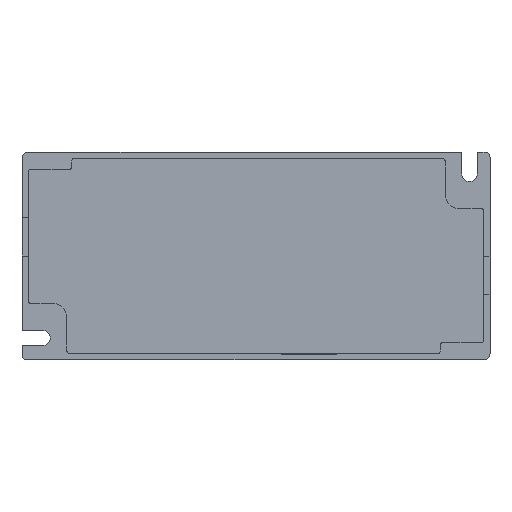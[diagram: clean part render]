
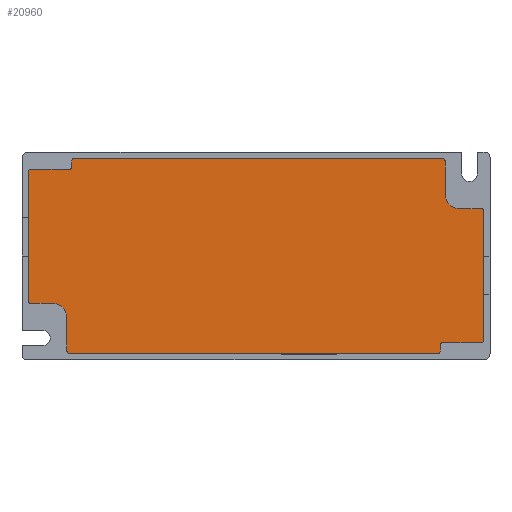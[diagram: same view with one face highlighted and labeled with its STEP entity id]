
A CAD part, front view. The second image highlights one B-rep face of the part: STEP entity #20960.
In plain terms, the highlighted planar face has unit normal (0, -1, 0).
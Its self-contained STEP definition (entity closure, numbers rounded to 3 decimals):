
#19527=CARTESIAN_POINT('',(-38.7,-5.5,-19.7));
#19528=DIRECTION('',(0.,1.,0.));
#19529=DIRECTION('',(0.,0.,-1.));
#19530=AXIS2_PLACEMENT_3D('',#19527,#19528,#19529);
#19535=CARTESIAN_POINT('',(-42.2,-5.5,-12.8));
#19536=DIRECTION('',(0.,-1.,0.));
#19537=DIRECTION('',(1.,0.,0.));
#19538=AXIS2_PLACEMENT_3D('',#19535,#19536,#19537);
#19543=CARTESIAN_POINT('',(-46.7,-5.5,-9.3));
#19544=DIRECTION('',(0.,1.,0.));
#19545=DIRECTION('',(0.,0.,-1.));
#19546=AXIS2_PLACEMENT_3D('',#19543,#19544,#19545);
#19551=CARTESIAN_POINT('',(-46.7,-5.5,17.5));
#19552=DIRECTION('',(0.,1.,0.));
#19553=DIRECTION('',(-1.,0.,0.));
#19554=AXIS2_PLACEMENT_3D('',#19551,#19552,#19553);
#19559=CARTESIAN_POINT('',(-38.7,-5.5,18.5));
#19560=DIRECTION('',(0.,-1.,0.));
#19561=DIRECTION('',(0.,0.,-1.));
#19562=AXIS2_PLACEMENT_3D('',#19559,#19560,#19561);
#19567=CARTESIAN_POINT('',(-37.7,-5.5,19.7));
#19568=DIRECTION('',(0.,1.,0.));
#19569=DIRECTION('',(-1.,0.,0.));
#19570=AXIS2_PLACEMENT_3D('',#19567,#19568,#19569);
#19575=CARTESIAN_POINT('',(38.7,-5.5,19.7));
#19576=DIRECTION('',(0.,1.,0.));
#19577=DIRECTION('',(0.,0.,1.));
#19578=AXIS2_PLACEMENT_3D('',#19575,#19576,#19577);
#19583=CARTESIAN_POINT('',(42.2,-5.5,12.8));
#19584=DIRECTION('',(0.,-1.,0.));
#19585=DIRECTION('',(-1.,0.,0.));
#19586=AXIS2_PLACEMENT_3D('',#19583,#19584,#19585);
#19591=CARTESIAN_POINT('',(46.7,-5.5,9.3));
#19592=DIRECTION('',(0.,1.,0.));
#19593=DIRECTION('',(0.,0.,1.));
#19594=AXIS2_PLACEMENT_3D('',#19591,#19592,#19593);
#19599=CARTESIAN_POINT('',(46.7,-5.5,-17.5));
#19600=DIRECTION('',(0.,1.,0.));
#19601=DIRECTION('',(1.,0.,0.));
#19602=AXIS2_PLACEMENT_3D('',#19599,#19600,#19601);
#19607=CARTESIAN_POINT('',(38.7,-5.5,-18.5));
#19608=DIRECTION('',(0.,-1.,0.));
#19609=DIRECTION('',(0.,0.,1.));
#19610=AXIS2_PLACEMENT_3D('',#19607,#19608,#19609);
#19615=CARTESIAN_POINT('',(37.7,-5.5,-19.7));
#19616=DIRECTION('',(0.,1.,0.));
#19617=DIRECTION('',(1.,0.,0.));
#19618=AXIS2_PLACEMENT_3D('',#19615,#19616,#19617);
#19833=DIRECTION('',(1.,0.,0.));
#19834=VECTOR('',#19833,76.4);
#19835=CARTESIAN_POINT('',(-38.7,-5.5,-20.2));
#19836=LINE('',#19835,#19834);
#19882=DIRECTION('',(0.,0.,1.));
#19883=VECTOR('',#19882,1.2);
#19884=CARTESIAN_POINT('',(38.2,-5.5,-19.7));
#19885=LINE('',#19884,#19883);
#19903=DIRECTION('',(1.,0.,0.));
#19904=VECTOR('',#19903,8.);
#19905=CARTESIAN_POINT('',(38.7,-5.5,-18.));
#19906=LINE('',#19905,#19904);
#19924=DIRECTION('',(0.,0.,1.));
#19925=VECTOR('',#19924,26.8);
#19926=CARTESIAN_POINT('',(47.2,-5.5,-17.5));
#19927=LINE('',#19926,#19925);
#19945=DIRECTION('',(-1.,0.,0.));
#19946=VECTOR('',#19945,4.5);
#19947=CARTESIAN_POINT('',(46.7,-5.5,9.8));
#19948=LINE('',#19947,#19946);
#19966=DIRECTION('',(0.,0.,1.));
#19967=VECTOR('',#19966,6.9);
#19968=CARTESIAN_POINT('',(39.2,-5.5,12.8));
#19969=LINE('',#19968,#19967);
#19987=DIRECTION('',(-1.,0.,0.));
#19988=VECTOR('',#19987,76.4);
#19989=CARTESIAN_POINT('',(38.7,-5.5,20.2));
#19990=LINE('',#19989,#19988);
#20036=DIRECTION('',(0.,0.,-1.));
#20037=VECTOR('',#20036,1.2);
#20038=CARTESIAN_POINT('',(-38.2,-5.5,19.7));
#20039=LINE('',#20038,#20037);
#20057=DIRECTION('',(-1.,0.,0.));
#20058=VECTOR('',#20057,8.);
#20059=CARTESIAN_POINT('',(-38.7,-5.5,18.));
#20060=LINE('',#20059,#20058);
#20078=DIRECTION('',(0.,0.,-1.));
#20079=VECTOR('',#20078,26.8);
#20080=CARTESIAN_POINT('',(-47.2,-5.5,17.5));
#20081=LINE('',#20080,#20079);
#20099=DIRECTION('',(1.,0.,0.));
#20100=VECTOR('',#20099,4.5);
#20101=CARTESIAN_POINT('',(-46.7,-5.5,-9.8));
#20102=LINE('',#20101,#20100);
#20120=DIRECTION('',(0.,0.,-1.));
#20121=VECTOR('',#20120,6.9);
#20122=CARTESIAN_POINT('',(-39.2,-5.5,-12.8));
#20123=LINE('',#20122,#20121);
#20689=CARTESIAN_POINT('',(-38.7,-5.5,-20.2));
#20690=CARTESIAN_POINT('',(-39.2,-5.5,-19.7));
#20691=VERTEX_POINT('',#20689);
#20692=VERTEX_POINT('',#20690);
#20693=CARTESIAN_POINT('',(-39.2,-5.5,-12.8));
#20694=VERTEX_POINT('',#20693);
#20695=CARTESIAN_POINT('',(-42.2,-5.5,-9.8));
#20696=VERTEX_POINT('',#20695);
#20697=CARTESIAN_POINT('',(-46.7,-5.5,-9.8));
#20698=VERTEX_POINT('',#20697);
#20699=CARTESIAN_POINT('',(-47.2,-5.5,-9.3));
#20700=VERTEX_POINT('',#20699);
#20701=CARTESIAN_POINT('',(-47.2,-5.5,17.5));
#20702=VERTEX_POINT('',#20701);
#20703=CARTESIAN_POINT('',(-46.7,-5.5,18.));
#20704=VERTEX_POINT('',#20703);
#20705=CARTESIAN_POINT('',(-38.7,-5.5,18.));
#20706=VERTEX_POINT('',#20705);
#20707=CARTESIAN_POINT('',(-38.2,-5.5,18.5));
#20708=VERTEX_POINT('',#20707);
#20709=CARTESIAN_POINT('',(-38.2,-5.5,19.7));
#20710=VERTEX_POINT('',#20709);
#20711=CARTESIAN_POINT('',(-37.7,-5.5,20.2));
#20712=VERTEX_POINT('',#20711);
#20713=CARTESIAN_POINT('',(38.7,-5.5,20.2));
#20714=VERTEX_POINT('',#20713);
#20715=CARTESIAN_POINT('',(39.2,-5.5,19.7));
#20716=VERTEX_POINT('',#20715);
#20717=CARTESIAN_POINT('',(39.2,-5.5,12.8));
#20718=VERTEX_POINT('',#20717);
#20719=CARTESIAN_POINT('',(42.2,-5.5,9.8));
#20720=VERTEX_POINT('',#20719);
#20721=CARTESIAN_POINT('',(46.7,-5.5,9.8));
#20722=VERTEX_POINT('',#20721);
#20723=CARTESIAN_POINT('',(47.2,-5.5,9.3));
#20724=VERTEX_POINT('',#20723);
#20725=CARTESIAN_POINT('',(47.2,-5.5,-17.5));
#20726=VERTEX_POINT('',#20725);
#20727=CARTESIAN_POINT('',(46.7,-5.5,-18.));
#20728=VERTEX_POINT('',#20727);
#20729=CARTESIAN_POINT('',(38.7,-5.5,-18.));
#20730=VERTEX_POINT('',#20729);
#20731=CARTESIAN_POINT('',(38.2,-5.5,-18.5));
#20732=VERTEX_POINT('',#20731);
#20733=CARTESIAN_POINT('',(38.2,-5.5,-19.7));
#20734=VERTEX_POINT('',#20733);
#20735=CARTESIAN_POINT('',(37.7,-5.5,-20.2));
#20736=VERTEX_POINT('',#20735);
#20905=CARTESIAN_POINT('',(0.,-5.5,0.));
#20906=DIRECTION('',(0.,-1.,0.));
#20907=DIRECTION('',(-1.,0.,0.));
#20908=AXIS2_PLACEMENT_3D('',#20905,#20906,#20907);
#20909=PLANE('',#20908);
#20911=ORIENTED_EDGE('',*,*,#20910,.T.);
#20913=ORIENTED_EDGE('',*,*,#20912,.F.);
#20915=ORIENTED_EDGE('',*,*,#20914,.T.);
#20917=ORIENTED_EDGE('',*,*,#20916,.F.);
#20919=ORIENTED_EDGE('',*,*,#20918,.T.);
#20921=ORIENTED_EDGE('',*,*,#20920,.F.);
#20923=ORIENTED_EDGE('',*,*,#20922,.T.);
#20925=ORIENTED_EDGE('',*,*,#20924,.F.);
#20927=ORIENTED_EDGE('',*,*,#20926,.T.);
#20929=ORIENTED_EDGE('',*,*,#20928,.F.);
#20931=ORIENTED_EDGE('',*,*,#20930,.T.);
#20933=ORIENTED_EDGE('',*,*,#20932,.F.);
#20935=ORIENTED_EDGE('',*,*,#20934,.T.);
#20937=ORIENTED_EDGE('',*,*,#20936,.F.);
#20939=ORIENTED_EDGE('',*,*,#20938,.T.);
#20941=ORIENTED_EDGE('',*,*,#20940,.F.);
#20943=ORIENTED_EDGE('',*,*,#20942,.T.);
#20945=ORIENTED_EDGE('',*,*,#20944,.F.);
#20947=ORIENTED_EDGE('',*,*,#20946,.T.);
#20949=ORIENTED_EDGE('',*,*,#20948,.F.);
#20951=ORIENTED_EDGE('',*,*,#20950,.T.);
#20953=ORIENTED_EDGE('',*,*,#20952,.F.);
#20955=ORIENTED_EDGE('',*,*,#20954,.T.);
#20957=ORIENTED_EDGE('',*,*,#20956,.F.);
#20958=EDGE_LOOP('',(#20911,#20913,#20915,#20917,#20919,#20921,#20923,#20925,
#20927,#20929,#20931,#20933,#20935,#20937,#20939,#20941,#20943,#20945,#20947,
#20949,#20951,#20953,#20955,#20957));
#20959=FACE_OUTER_BOUND('',#20958,.F.);
#20960=ADVANCED_FACE('',(#20959),#20909,.T.);
#19531=CIRCLE('',#19530,0.5);
#19539=CIRCLE('',#19538,3.);
#19547=CIRCLE('',#19546,0.5);
#19555=CIRCLE('',#19554,0.5);
#19563=CIRCLE('',#19562,0.5);
#19571=CIRCLE('',#19570,0.5);
#19579=CIRCLE('',#19578,0.5);
#19587=CIRCLE('',#19586,3.);
#19595=CIRCLE('',#19594,0.5);
#19603=CIRCLE('',#19602,0.5);
#19611=CIRCLE('',#19610,0.5);
#19619=CIRCLE('',#19618,0.5);
#20910=EDGE_CURVE('',#20691,#20692,#19531,.T.);
#20912=EDGE_CURVE('',#20694,#20692,#20123,.T.);
#20914=EDGE_CURVE('',#20694,#20696,#19539,.T.);
#20916=EDGE_CURVE('',#20698,#20696,#20102,.T.);
#20918=EDGE_CURVE('',#20698,#20700,#19547,.T.);
#20920=EDGE_CURVE('',#20702,#20700,#20081,.T.);
#20922=EDGE_CURVE('',#20702,#20704,#19555,.T.);
#20924=EDGE_CURVE('',#20706,#20704,#20060,.T.);
#20926=EDGE_CURVE('',#20706,#20708,#19563,.T.);
#20928=EDGE_CURVE('',#20710,#20708,#20039,.T.);
#20930=EDGE_CURVE('',#20710,#20712,#19571,.T.);
#20932=EDGE_CURVE('',#20714,#20712,#19990,.T.);
#20934=EDGE_CURVE('',#20714,#20716,#19579,.T.);
#20936=EDGE_CURVE('',#20718,#20716,#19969,.T.);
#20938=EDGE_CURVE('',#20718,#20720,#19587,.T.);
#20940=EDGE_CURVE('',#20722,#20720,#19948,.T.);
#20942=EDGE_CURVE('',#20722,#20724,#19595,.T.);
#20944=EDGE_CURVE('',#20726,#20724,#19927,.T.);
#20946=EDGE_CURVE('',#20726,#20728,#19603,.T.);
#20948=EDGE_CURVE('',#20730,#20728,#19906,.T.);
#20950=EDGE_CURVE('',#20730,#20732,#19611,.T.);
#20952=EDGE_CURVE('',#20734,#20732,#19885,.T.);
#20954=EDGE_CURVE('',#20734,#20736,#19619,.T.);
#20956=EDGE_CURVE('',#20691,#20736,#19836,.T.);
